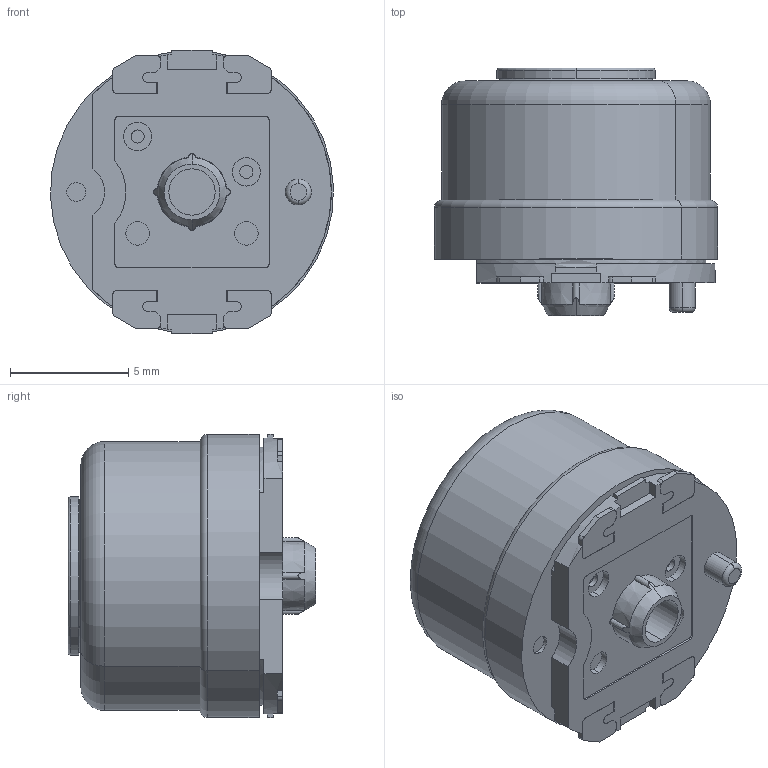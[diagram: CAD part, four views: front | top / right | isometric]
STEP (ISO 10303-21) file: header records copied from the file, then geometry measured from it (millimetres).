
FILE_DESCRIPTION(('Creo Elements/Direct Modeling STEP Export'),'2;1');
FILE_NAME('229SP.stp','2013-04-07T23:18:50',(''),(''),'Creo Elements/Direct Modeling STEP processor for AP214 (Solid Model)','Creo Elements/Direct Modeling 18.1C 24-Feb-2013 (C) Parametric Technology GmbH','');
FILE_SCHEMA(('AUTOMOTIVE_DESIGN { 1 0 10303 214 1 1 1 1 }'));
Length unit declared in the file: millimetre
Products named in the file (1): 13M229-01-101_HOUSING_CUT.PRT
Bounding box: 11.98 x 10.49 x 12 mm (x, y, z)
Volume: 894.1 mm3; surface area: 930.8 mm2
Topology: 1 solids, 20 shells, 312 faces, 742 edges, 484 vertices
Faces by surface type: plane 155, cylinder 99, torus 32, cone 26
Entity records: 8707 total; most frequent: CARTESIAN_POINT 1647, ORIENTED_EDGE 1492, DIRECTION 1411, EDGE_CURVE 742, AXIS2_PLACEMENT_3D 516, VERTEX_POINT 484, VECTOR 379, LINE 379
